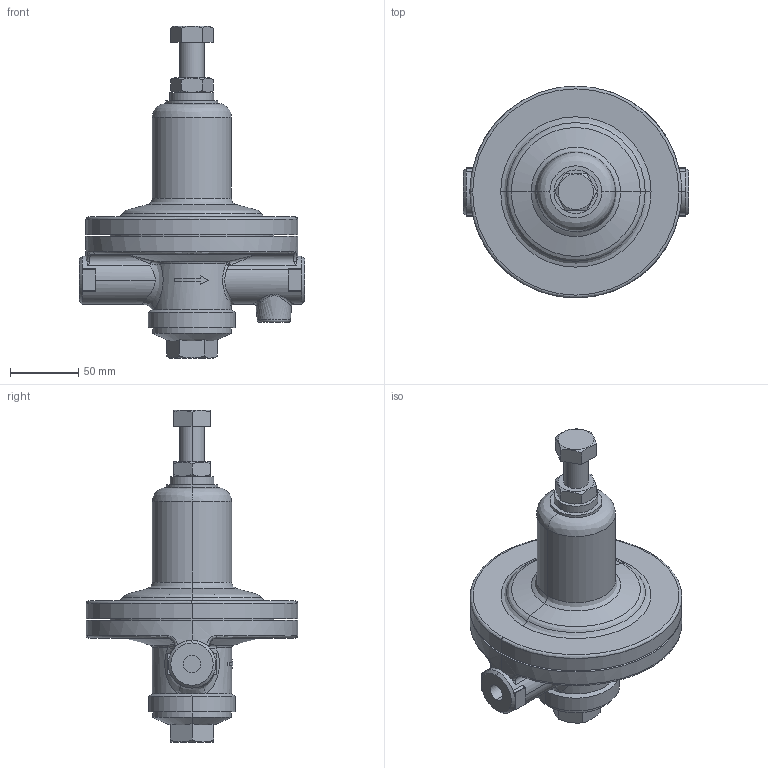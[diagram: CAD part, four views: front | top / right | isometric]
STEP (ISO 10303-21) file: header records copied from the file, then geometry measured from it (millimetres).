
FILE_DESCRIPTION( (''), '2;1');
FILE_NAME ('PC1276.11612.GD-6 10A_27518.stp','2026-01-15T14:15:27',(''),(''),'spGate 20.6.3 (****-****-****-****)','','');
FILE_SCHEMA (('AUTOMOTIVE_DESIGN'));
Length unit declared in the file: millimetre
Bounding box: 165 x 155 x 243.02 mm (x, y, z)
Volume: 1095247.8 mm3; surface area: 105776.1 mm2
Topology: 1 solids, 1 shells, 172 faces, 423 edges, 259 vertices
Faces by surface type: bspline 67, plane 62, cylinder 40, sphere 3
Entity records: 11608 total; most frequent: CARTESIAN_POINT 4753, ORIENTED_EDGE 834, DIRECTION 613, COLOUR_RGB 590, PRESENTATION_STYLE_ASSIGNMENT 590, STYLED_ITEM 590, EDGE_CURVE 417, DRAUGHTING_PRE_DEFINED_CURVE_FONT 417
